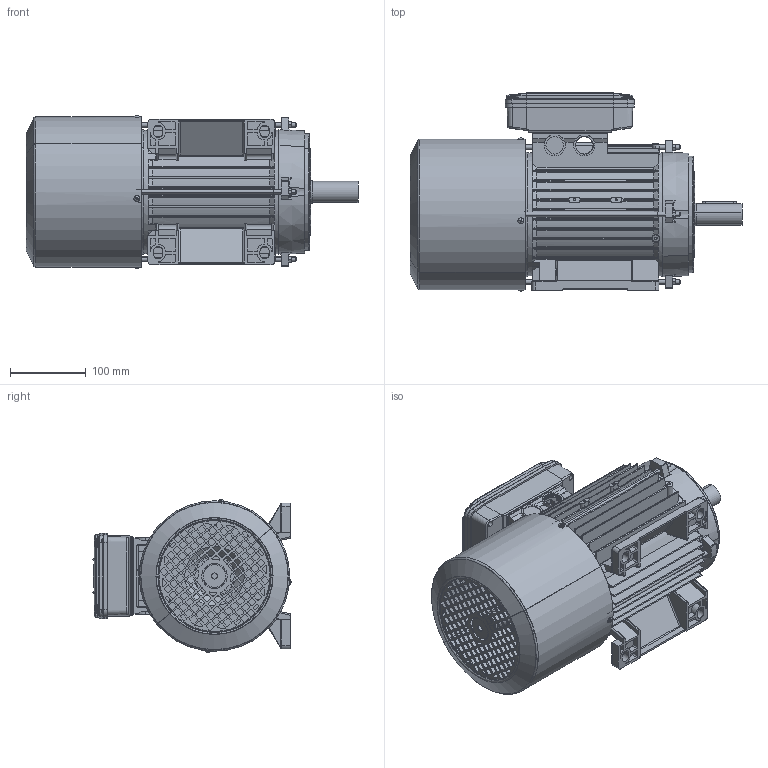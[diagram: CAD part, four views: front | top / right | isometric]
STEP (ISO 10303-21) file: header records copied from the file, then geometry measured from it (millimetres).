
FILE_DESCRIPTION (( 'STEP AP214' ), '1' );
FILE_NAME ('BM 100 B3 - DM.STEP', '2018-09-17T07:32:56', ( '' ), ( '' ), 'SwSTEP 2.0', 'SolidWorks 2018', '' );
FILE_SCHEMA (( 'AUTOMOTIVE_DESIGN' ));
Length unit declared in the file: millimetre
Products named in the file (15): Vite  a testa bombata M4x16; Coperchio per Scatola per Morsettiera Doppia 90-100-112; Scatola per Morsettiera Doppia 90-100-112; Dado M5; Scudo Lato Comando B3 BA-BM 100 - DEAD0094; Vite testa rotonda M3; Tirante SM 100; Chiavetta 100-112; Albero BM 100; Cuffia BM 100- DEAL0097; Scudo Lato Freno P1 BM 100 - DEAQ0197; Carcassa 100 L B3; BM 100 B3 - DM; Scatola per Morsettiera Doppia 90-100-112 - Completa; Guarnizione Coperchio Semplice Scatola BA 90 100 112 - DDAL0094
Assembly tree (26 placements, depth 3):
  BM 100 B3 - DM
    Carcassa 100 L B3
    Scudo Lato Freno P1 BM 100 - DEAQ0197
    Cuffia BM 100- DEAL0097
    Albero BM 100
    Chiavetta 100-112
    Tirante SM 100  x4
    Vite testa rotonda M3  x4
    Scudo Lato Comando B3 BA-BM 100 - DEAD0094
    Dado M5  x4
    Scatola per Morsettiera Doppia 90-100-112 - Completa
      Scatola per Morsettiera Doppia 90-100-112
      Coperchio per Scatola per Morsettiera Doppia 90-100-112
      Vite  a testa bombata M4x16  x4
      Guarnizione Coperchio Semplice Scatola BA 90 100 112 - DDAL0094
Bounding box: 437 x 260.81 x 201.62 mm (x, y, z)
Volume: 1858752.2 mm3; surface area: 1037259.3 mm2
Topology: 29 solids, 29 shells, 3834 faces, 10540 edges, 6807 vertices
Faces by surface type: cylinder 1592, plane 1499, torus 376, cone 228, bspline 119, sphere 20
Entity records: 122666 total; most frequent: CARTESIAN_POINT 35192, ORIENTED_EDGE 18682, DIRECTION 17657, EDGE_CURVE 9341, AXIS2_PLACEMENT_3D 6403, VERTEX_POINT 6075, VECTOR 4851, LINE 4851
